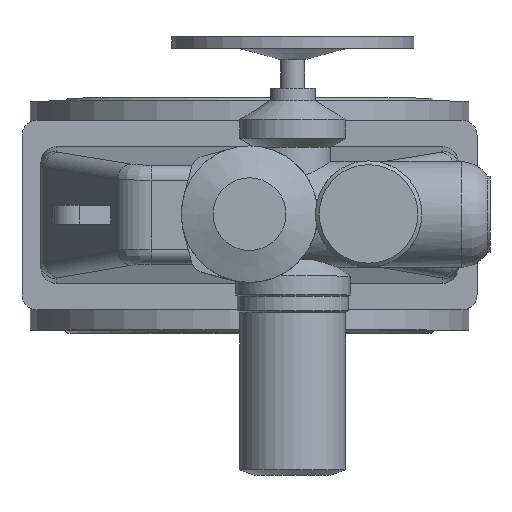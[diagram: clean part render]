
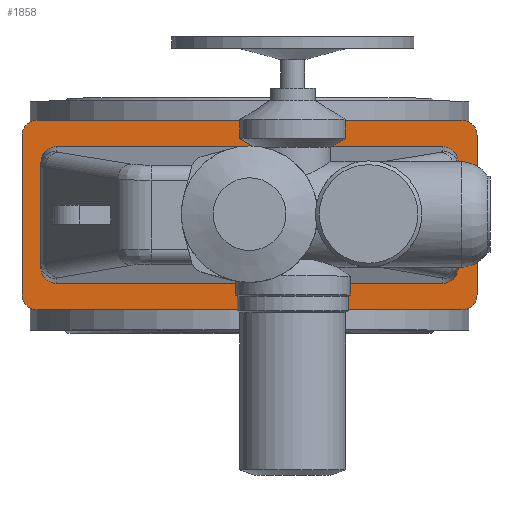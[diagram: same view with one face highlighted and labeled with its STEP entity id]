
A CAD part, top view. The second image highlights one B-rep face of the part: STEP entity #1858.
In plain terms, the highlighted planar face has unit normal (0, 0, 1).
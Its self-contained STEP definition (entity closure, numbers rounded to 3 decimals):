
#1858=ADVANCED_FACE('',(#6426,#6428),#6430,.T.);
#6426=FACE_BOUND('',#6427,.T.);
#6427=EDGE_LOOP('',(#9086,#9087,#9088,#9089,#9090,#9091,#9092,#9093));
#6428=FACE_BOUND('',#6429,.T.);
#6429=EDGE_LOOP('',(#9094,#9095,#9096,#9097,#9098,#9099,#9100,#9101));
#6430=PLANE('',#6431);
#6431=AXIS2_PLACEMENT_3D('',#6432,#6433,#6434);
#6432=CARTESIAN_POINT('',(0.,0.,466.));
#6433=DIRECTION('',(0.,-0.,1.));
#6434=DIRECTION('',(0.,1.,0.));
#9086=ORIENTED_EDGE('',*,*,#10196,.F.);
#9087=ORIENTED_EDGE('',*,*,#10209,.T.);
#9088=ORIENTED_EDGE('',*,*,#10208,.F.);
#9089=ORIENTED_EDGE('',*,*,#10206,.T.);
#9090=ORIENTED_EDGE('',*,*,#10204,.F.);
#9091=ORIENTED_EDGE('',*,*,#10202,.T.);
#9092=ORIENTED_EDGE('',*,*,#10200,.F.);
#9093=ORIENTED_EDGE('',*,*,#10197,.T.);
#9094=ORIENTED_EDGE('',*,*,#10210,.F.);
#9095=ORIENTED_EDGE('',*,*,#10211,.F.);
#9096=ORIENTED_EDGE('',*,*,#10212,.F.);
#9097=ORIENTED_EDGE('',*,*,#10213,.F.);
#9098=ORIENTED_EDGE('',*,*,#10214,.F.);
#9099=ORIENTED_EDGE('',*,*,#10215,.F.);
#9100=ORIENTED_EDGE('',*,*,#10216,.F.);
#9101=ORIENTED_EDGE('',*,*,#10217,.F.);
#10196=EDGE_CURVE('',#11315,#11313,#11317,.F.);
#10197=EDGE_CURVE('',#11318,#11313,#11319,.T.);
#10200=EDGE_CURVE('',#11318,#11321,#11323,.F.);
#10202=EDGE_CURVE('',#11324,#11321,#11326,.T.);
#10204=EDGE_CURVE('',#11324,#11327,#11329,.F.);
#10206=EDGE_CURVE('',#11330,#11327,#11332,.T.);
#10208=EDGE_CURVE('',#11330,#11333,#11335,.F.);
#10209=EDGE_CURVE('',#11315,#11333,#11336,.T.);
#10210=EDGE_CURVE('',#11337,#11338,#11339,.F.);
#10211=EDGE_CURVE('',#11340,#11337,#11341,.T.);
#10212=EDGE_CURVE('',#11342,#11340,#11343,.T.);
#10213=EDGE_CURVE('',#11344,#11342,#11345,.T.);
#10214=EDGE_CURVE('',#11346,#11344,#11347,.F.);
#10215=EDGE_CURVE('',#11348,#11346,#11349,.T.);
#10216=EDGE_CURVE('',#11350,#11348,#11351,.T.);
#10217=EDGE_CURVE('',#11338,#11350,#11352,.T.);
#11313=VERTEX_POINT('',#14623);
#11315=VERTEX_POINT('',#14627);
#11317=CIRCLE('',#14631,20.);
#11318=VERTEX_POINT('',#14635);
#11319=LINE('',#14636,#14637);
#11321=VERTEX_POINT('',#14642);
#11323=CIRCLE('',#14646,20.);
#11324=VERTEX_POINT('',#14650);
#11326=LINE('',#14654,#14655);
#11327=VERTEX_POINT('',#14657);
#11329=CIRCLE('',#14661,20.);
#11330=VERTEX_POINT('',#14665);
#11332=LINE('',#14669,#14670);
#11333=VERTEX_POINT('',#14672);
#11335=CIRCLE('',#14676,20.);
#11336=LINE('',#14680,#14681);
#11337=VERTEX_POINT('',#14683);
#11338=VERTEX_POINT('',#14684);
#11339=(BOUNDED_CURVE()B_SPLINE_CURVE(3,
(#14685,#14686,#14687,#14688),
.UNSPECIFIED.,.F.,.F.)B_SPLINE_CURVE_WITH_KNOTS((4,4),
(0.,1.),
.UNSPECIFIED.)CURVE()GEOMETRIC_REPRESENTATION_ITEM()RATIONAL_B_SPLINE_CURVE((1.,
0.805,0.805,1.))REPRESENTATION_ITEM(''));
#11340=VERTEX_POINT('',#14689);
#11341=LINE('',#14690,#14691);
#11342=VERTEX_POINT('',#14693);
#11343=(BOUNDED_CURVE()B_SPLINE_CURVE(3,
(#14694,#14695,#14696,#14697),
.UNSPECIFIED.,.F.,.F.)B_SPLINE_CURVE_WITH_KNOTS((4,4),
(0.,1.),
.UNSPECIFIED.)CURVE()GEOMETRIC_REPRESENTATION_ITEM()RATIONAL_B_SPLINE_CURVE((1.,
0.805,0.805,1.))REPRESENTATION_ITEM(''));
#11344=VERTEX_POINT('',#14698);
#11345=LINE('',#14699,#14700);
#11346=VERTEX_POINT('',#14702);
#11347=(BOUNDED_CURVE()B_SPLINE_CURVE(3,
(#14703,#14704,#14705,#14706),
.UNSPECIFIED.,.F.,.F.)B_SPLINE_CURVE_WITH_KNOTS((4,4),
(0.,1.),
.UNSPECIFIED.)CURVE()GEOMETRIC_REPRESENTATION_ITEM()RATIONAL_B_SPLINE_CURVE((1.,
0.805,0.805,1.))REPRESENTATION_ITEM(''));
#11348=VERTEX_POINT('',#14707);
#11349=LINE('',#14708,#14709);
#11350=VERTEX_POINT('',#14711);
#11351=(BOUNDED_CURVE()B_SPLINE_CURVE(3,
(#14712,#14713,#14714,#14715),
.UNSPECIFIED.,.F.,.F.)B_SPLINE_CURVE_WITH_KNOTS((4,4),
(0.,1.),
.UNSPECIFIED.)CURVE()GEOMETRIC_REPRESENTATION_ITEM()RATIONAL_B_SPLINE_CURVE((1.,
0.805,0.805,1.))REPRESENTATION_ITEM(''));
#11352=LINE('',#14716,#14717);
#14623=CARTESIAN_POINT('',(-300.,-105.,466.));
#14627=CARTESIAN_POINT('',(-280.,-125.,466.));
#14631=AXIS2_PLACEMENT_3D('',#14632,#14633,#14634);
#14632=CARTESIAN_POINT('',(-280.,-105.,466.));
#14633=DIRECTION('',(0.,-0.,1.));
#14634=DIRECTION('',(-1.,0.,0.));
#14635=CARTESIAN_POINT('',(-300.,105.,466.));
#14636=CARTESIAN_POINT('',(-300.,105.,466.));
#14637=VECTOR('',#14638,1.);
#14638=DIRECTION('',(0.,-1.,0.));
#14642=CARTESIAN_POINT('',(-280.,125.,466.));
#14646=AXIS2_PLACEMENT_3D('',#14647,#14648,#14649);
#14647=CARTESIAN_POINT('',(-280.,105.,466.));
#14648=DIRECTION('',(0.,-0.,1.));
#14649=DIRECTION('',(0.,1.,0.));
#14650=CARTESIAN_POINT('',(280.,125.,466.));
#14654=CARTESIAN_POINT('',(280.,125.,466.));
#14655=VECTOR('',#14656,1.);
#14656=DIRECTION('',(-1.,0.,0.));
#14657=CARTESIAN_POINT('',(300.,105.,466.));
#14661=AXIS2_PLACEMENT_3D('',#14662,#14663,#14664);
#14662=CARTESIAN_POINT('',(280.,105.,466.));
#14663=DIRECTION('',(0.,-0.,1.));
#14664=DIRECTION('',(1.,0.,0.));
#14665=CARTESIAN_POINT('',(300.,-105.,466.));
#14669=CARTESIAN_POINT('',(300.,-105.,466.));
#14670=VECTOR('',#14671,1.);
#14671=DIRECTION('',(0.,1.,0.));
#14672=CARTESIAN_POINT('',(280.,-125.,466.));
#14676=AXIS2_PLACEMENT_3D('',#14677,#14678,#14679);
#14677=CARTESIAN_POINT('',(280.,-105.,466.));
#14678=DIRECTION('',(0.,-0.,1.));
#14679=DIRECTION('',(0.,-1.,0.));
#14680=CARTESIAN_POINT('',(-280.,-125.,466.));
#14681=VECTOR('',#14682,1.);
#14682=DIRECTION('',(1.,0.,0.));
#14683=CARTESIAN_POINT('',(255.,-90.,466.));
#14684=CARTESIAN_POINT('',(275.,-69.924,466.));
#14685=CARTESIAN_POINT('',(275.,-69.924,466.));
#14686=CARTESIAN_POINT('',(275.,-81.684,466.));
#14687=CARTESIAN_POINT('',(266.716,-90.,466.));
#14688=CARTESIAN_POINT('',(255.,-90.,466.));
#14689=CARTESIAN_POINT('',(-255.,-90.,466.));
#14690=CARTESIAN_POINT('',(-255.,-90.,466.));
#14691=VECTOR('',#14692,1.);
#14692=DIRECTION('',(1.,0.,0.));
#14693=CARTESIAN_POINT('',(-275.,-69.924,466.));
#14694=CARTESIAN_POINT('',(-275.,-69.924,466.));
#14695=CARTESIAN_POINT('',(-275.,-81.684,466.));
#14696=CARTESIAN_POINT('',(-266.716,-90.,466.));
#14697=CARTESIAN_POINT('',(-255.,-90.,466.));
#14698=CARTESIAN_POINT('',(-275.,69.924,466.));
#14699=CARTESIAN_POINT('',(-275.,69.924,466.));
#14700=VECTOR('',#14701,1.);
#14701=DIRECTION('',(0.,-1.,0.));
#14702=CARTESIAN_POINT('',(-255.,90.,466.));
#14703=CARTESIAN_POINT('',(-275.,69.924,466.));
#14704=CARTESIAN_POINT('',(-275.,81.684,466.));
#14705=CARTESIAN_POINT('',(-266.716,90.,466.));
#14706=CARTESIAN_POINT('',(-255.,90.,466.));
#14707=CARTESIAN_POINT('',(255.,90.,466.));
#14708=CARTESIAN_POINT('',(255.,90.,466.));
#14709=VECTOR('',#14710,1.);
#14710=DIRECTION('',(-1.,0.,0.));
#14711=CARTESIAN_POINT('',(275.,69.924,466.));
#14712=CARTESIAN_POINT('',(275.,69.924,466.));
#14713=CARTESIAN_POINT('',(275.,81.684,466.));
#14714=CARTESIAN_POINT('',(266.716,90.,466.));
#14715=CARTESIAN_POINT('',(255.,90.,466.));
#14716=CARTESIAN_POINT('',(275.,-69.924,466.));
#14717=VECTOR('',#14718,1.);
#14718=DIRECTION('',(0.,1.,0.));
